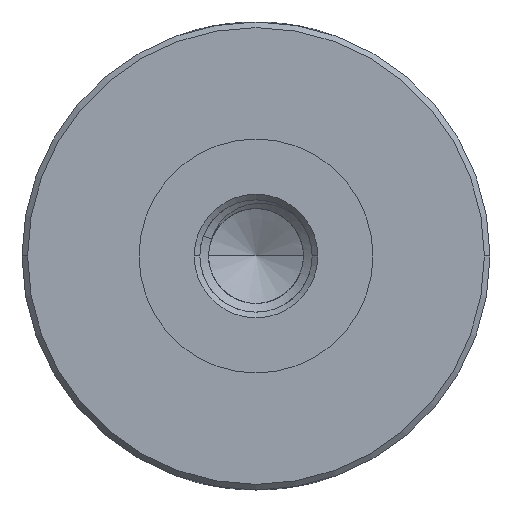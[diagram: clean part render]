
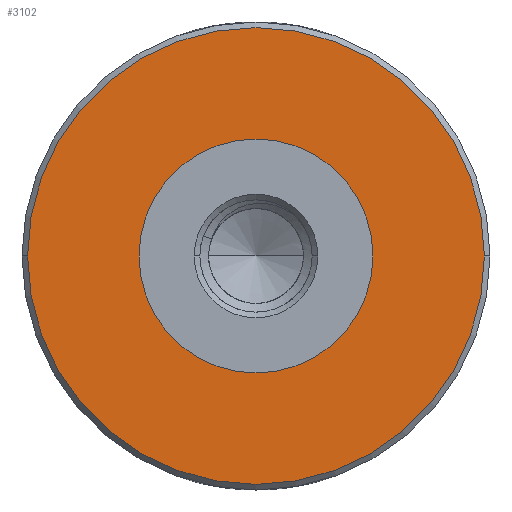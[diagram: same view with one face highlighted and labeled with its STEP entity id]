
A CAD part, front view. The second image highlights one B-rep face of the part: STEP entity #3102.
In plain terms, the highlighted planar face has unit normal (0, -1, 0).
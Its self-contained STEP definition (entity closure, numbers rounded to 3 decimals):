
#1=CARTESIAN_POINT('',(0.,-50.,0.));
#2=DIRECTION('',(0.,1.,0.));
#3=DIRECTION('',(1.,0.,0.));
#4=AXIS2_PLACEMENT_3D('',#1,#2,#3);
#6=CARTESIAN_POINT('',(0.,-50.,0.));
#7=DIRECTION('',(0.,1.,0.));
#8=DIRECTION('',(-1.,0.,0.));
#9=AXIS2_PLACEMENT_3D('',#6,#7,#8);
#11=CARTESIAN_POINT('',(0.,-50.,0.));
#12=DIRECTION('',(0.,-1.,0.));
#13=DIRECTION('',(-1.,0.,0.));
#14=AXIS2_PLACEMENT_3D('',#11,#12,#13);
#16=CARTESIAN_POINT('',(0.,-50.,0.));
#17=DIRECTION('',(0.,-1.,0.));
#18=DIRECTION('',(1.,0.,0.));
#19=AXIS2_PLACEMENT_3D('',#16,#17,#18);
#2975=CARTESIAN_POINT('',(6.25,-50.,0.));
#2976=VERTEX_POINT('',#2975);
#2977=CARTESIAN_POINT('',(-6.25,-50.,0.));
#2978=VERTEX_POINT('',#2977);
#3061=CARTESIAN_POINT('',(-12.2,-50.,0.));
#3062=CARTESIAN_POINT('',(12.2,-50.,0.));
#3063=VERTEX_POINT('',#3061);
#3064=VERTEX_POINT('',#3062);
#3085=CARTESIAN_POINT('',(0.,-50.,0.));
#3086=DIRECTION('',(0.,1.,0.));
#3087=DIRECTION('',(1.,0.,0.));
#3088=AXIS2_PLACEMENT_3D('',#3085,#3086,#3087);
#3089=PLANE('',#3088);
#3091=ORIENTED_EDGE('',*,*,#3090,.F.);
#3093=ORIENTED_EDGE('',*,*,#3092,.F.);
#3094=EDGE_LOOP('',(#3091,#3093));
#3095=FACE_OUTER_BOUND('',#3094,.F.);
#3097=ORIENTED_EDGE('',*,*,#3096,.F.);
#3099=ORIENTED_EDGE('',*,*,#3098,.F.);
#3100=EDGE_LOOP('',(#3097,#3099));
#3101=FACE_BOUND('',#3100,.F.);
#3102=ADVANCED_FACE('',(#3095,#3101),#3089,.F.);
#5=CIRCLE('',#4,6.25);
#10=CIRCLE('',#9,6.25);
#15=CIRCLE('',#14,12.2);
#20=CIRCLE('',#19,12.2);
#3090=EDGE_CURVE('',#3063,#3064,#15,.T.);
#3092=EDGE_CURVE('',#3064,#3063,#20,.T.);
#3096=EDGE_CURVE('',#2976,#2978,#5,.T.);
#3098=EDGE_CURVE('',#2978,#2976,#10,.T.);
